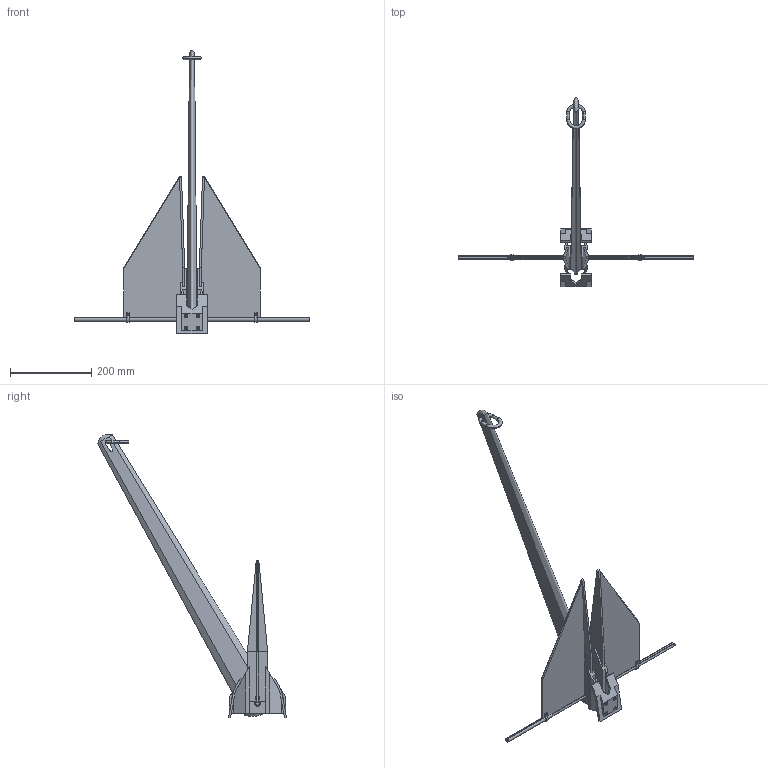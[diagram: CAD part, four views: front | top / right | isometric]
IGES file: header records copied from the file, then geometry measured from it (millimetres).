
Start section: SolidWorks IGES file using analytic representation for surfaces
Global section: file name: C:\Users\Jared Garber\Documents\# jared\Engineering\SolidWorks\anchor\danforth\STEP IGS\danforth anchor.igs; native system: SolidWorks 2011; preprocessor: SolidWorks 2011; author: Jared Garber; date: 130927.113318; units: millimetre
Bounding box: 580 x 465.64 x 698.69 mm (x, y, z)
Surface area: 445148.1 mm2 (no closed solid volume)
Topology: 0 solids, 0 shells, 444 faces, 4868 edges, 4852 vertices
Faces by surface type: bspline 280, revolution 164
